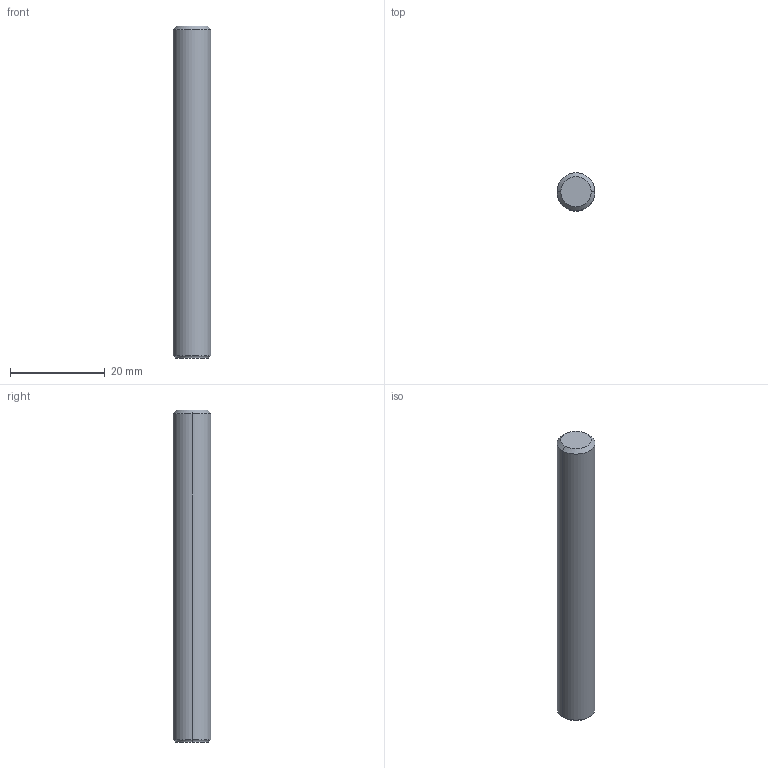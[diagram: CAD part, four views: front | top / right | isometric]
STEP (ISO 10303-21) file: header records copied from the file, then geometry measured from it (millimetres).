
FILE_DESCRIPTION (( 'STEP AP214' ), '1' );
FILE_NAME ('780.005.09_3D-model.step', '2022-02-19T10:14:03', ( '' ), ( '' ), 'SwSTEP 2.0', 'SolidWorks 2020', '' );
FILE_SCHEMA (( 'AUTOMOTIVE_DESIGN' ));
Length unit declared in the file: millimetre
Products named in the file (3): 780.005.09_3D-model; NOCUT-3D^Baugr133; CUT-3D^Baugr133
Assembly tree (2 placements, depth 2):
  780.005.09_3D-model
    CUT-3D^Baugr133
    NOCUT-3D^Baugr133
Bounding box: 8 x 8 x 70 mm (x, y, z)
Volume: 3506.4 mm3; surface area: 1886.6 mm2
Topology: 2 solids, 2 shells, 14 faces, 26 edges, 16 vertices
Faces by surface type: cylinder 6, plane 4, torus 2, cone 2
Entity records: 482 total; most frequent: DIRECTION 88, CARTESIAN_POINT 64, ORIENTED_EDGE 52, AXIS2_PLACEMENT_3D 40, EDGE_CURVE 26, CIRCLE 18, VERTEX_POINT 16, EDGE_LOOP 16
